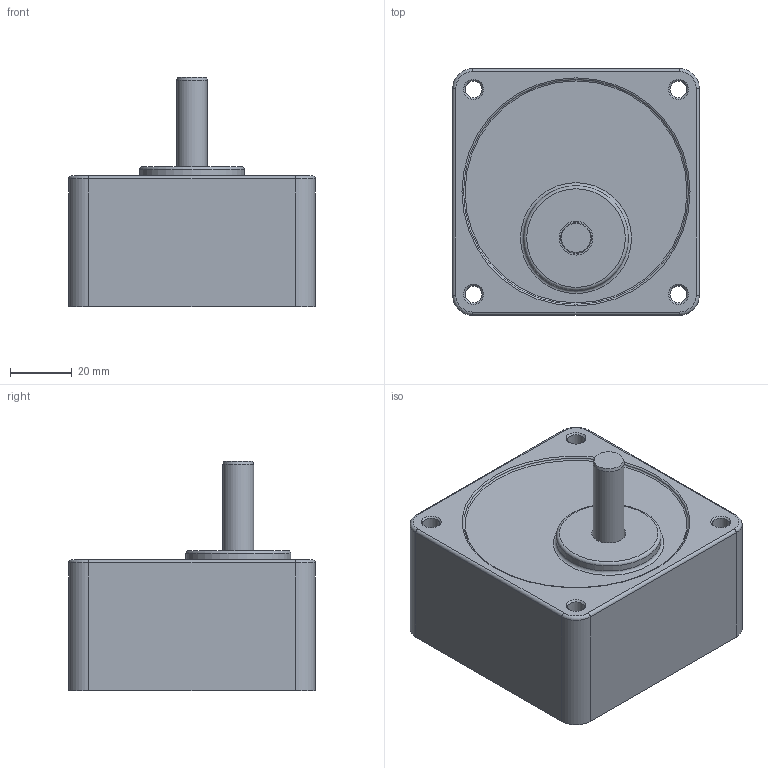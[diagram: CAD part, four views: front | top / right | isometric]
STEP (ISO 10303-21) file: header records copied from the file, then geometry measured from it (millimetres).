
FILE_DESCRIPTION((''),'2;1');
FILE_NAME('\\Spgrnd02\고객배포용도면\3D\01 Standard AC Motor\01 INDUCTION MOTOR\S8I15+S8KA\S8SA20~200.stp','2015-03-24T16:57:03',('smkim'),(''),'Autodesk Inventor 2012','Autodesk Inventor 2012','');
FILE_SCHEMA(('AUTOMOTIVE_DESIGN { 1 0 10303 214 1 1 1 1 }'));
Length unit declared in the file: millimetre
Products named in the file (1): S8SA20~200
Bounding box: 80 x 80 x 74.5 mm (x, y, z)
Volume: 246368.3 mm3; surface area: 31580.6 mm2
Topology: 1 solids, 1 shells, 42 faces, 86 edges, 52 vertices
Faces by surface type: cylinder 17, plane 12, torus 8, cone 5
Full cylindrical faces by diameter (mm): 5.5 x4, 8 x1, 10 x1, 11 x1, 34 x1, 73 x1
Entity records: 1069 total; most frequent: DIRECTION 202, CARTESIAN_POINT 163, ORIENTED_EDGE 136, AXIS2_PLACEMENT_3D 91, EDGE_LOOP 74, EDGE_CURVE 68, VERTEX_POINT 52, CIRCLE 48
